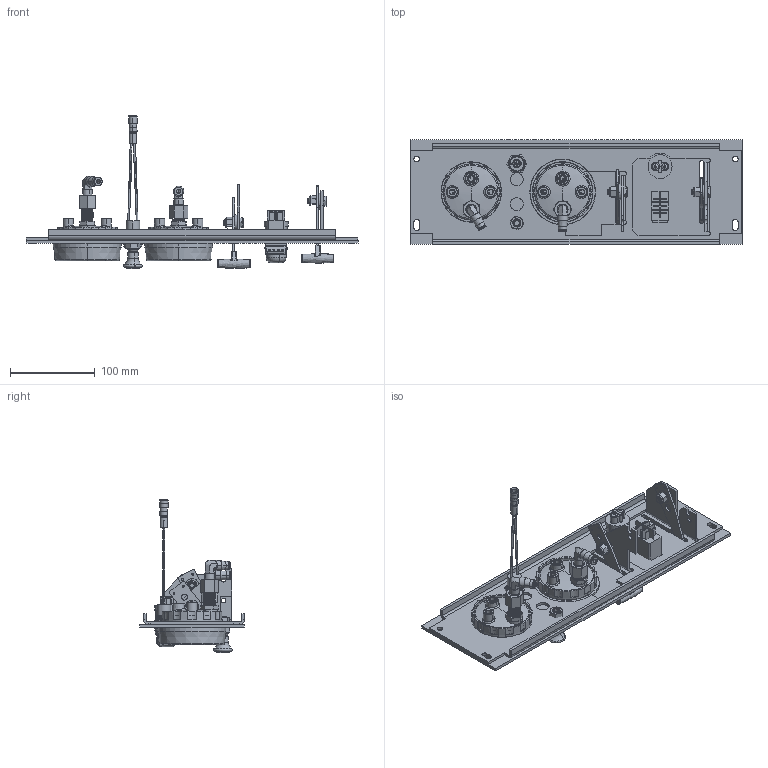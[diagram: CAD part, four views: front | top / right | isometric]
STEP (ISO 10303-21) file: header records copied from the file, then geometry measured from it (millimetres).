
FILE_DESCRIPTION (( 'STEP AP214' ), '1' );
FILE_NAME ('HPX-B18_B23_B35 XTREME PANEL ASSEMBLY.STEP', '2017-10-30T12:18:54', ( '' ), ( '' ), 'SwSTEP 2.0', 'SolidWorks 2016', '' );
FILE_SCHEMA (( 'AUTOMOTIVE_DESIGN' ));
Length unit declared in the file: millimetre
Products named in the file (1): HPX-B18_B23_B35 XTREME PANEL ASSEMBLY
Bounding box: 392.18 x 123.95 x 181.05 mm (x, y, z)
Surface area: 255285 mm2 (no closed solid volume)
Topology: 0 solids, 76 shells, 1586 faces, 5809 edges, 4145 vertices
Faces by surface type: plane 605, cylinder 429, bspline 196, torus 187, cone 154, sphere 15
Entity records: 115006 total; most frequent: CARTESIAN_POINT 52360, ORIENTED_EDGE 8862, DIRECTION 8247, EDGE_CURVE 5802, VERTEX_POINT 4145, AXIS2_PLACEMENT_3D 2870, LINE 2507, VECTOR 2507
